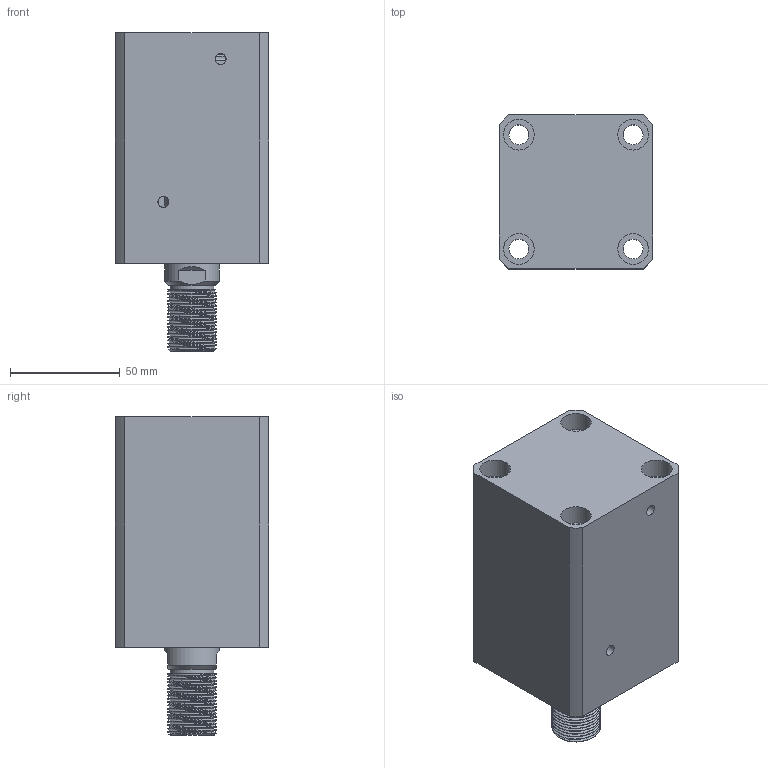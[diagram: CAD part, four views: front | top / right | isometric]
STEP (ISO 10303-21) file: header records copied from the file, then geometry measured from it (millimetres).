
FILE_DESCRIPTION(/* description */ (''),/* implementation_level */ '2;1');
FILE_NAME(/* name */ 'CHTB-sdma40x50n.stp',/* time_stamp */ '2022-04-29T17:44:07+08:00',/* author */ (''),/* organization */ (''),/* preprocessor_version */ 'ST-DEVELOPER v16.7',/* originating_system */ 'SIEMENS PLM Software NX 12.0',/* authorisation */ '');
FILE_SCHEMA (('AUTOMOTIVE_DESIGN { 1 0 10303 214 3 1 1 1 }'));
Length unit declared in the file: millimetre
Products named in the file (1): CHTB-sdma40x50n
Bounding box: 70 x 70 x 145 mm (x, y, z)
Volume: 448337.9 mm3; surface area: 92048.8 mm2
Topology: 3 solids, 4 shells, 494 faces, 1395 edges, 957 vertices
Faces by surface type: plane 315, extrusion 113, cylinder 42, torus 11, bspline 8, cone 5
Full cylindrical faces by diameter (mm): 4 x2, 4.2 x2, 5 x3, 9 x6, 14 x8, 20 x1, 25 x2, 29 x1, 34 x2, 40 x4, 45 x1
Entity records: 24757 total; most frequent: CARTESIAN_POINT 10085, ORIENTED_EDGE 2652, DIRECTION 1933, EDGE_CURVE 1326, VECTOR 995, VERTEX_POINT 939, LINE 882, EDGE_LOOP 609
